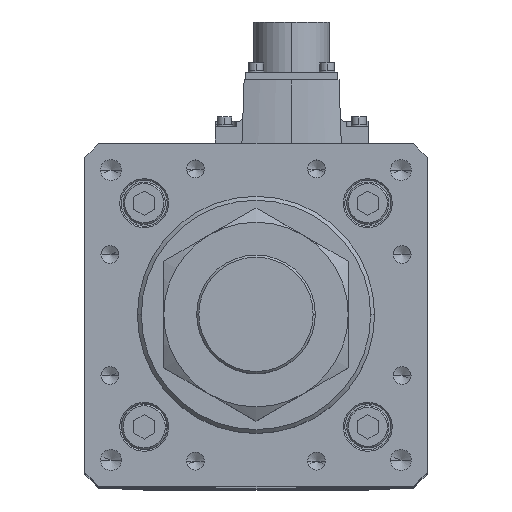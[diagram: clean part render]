
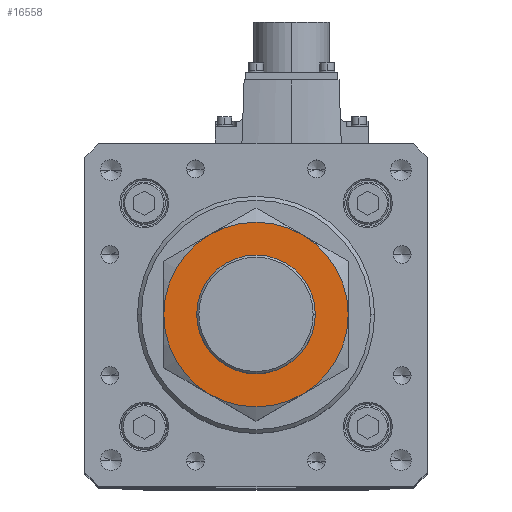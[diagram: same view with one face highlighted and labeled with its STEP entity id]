
A CAD part, top view. The second image highlights one B-rep face of the part: STEP entity #16558.
In plain terms, the highlighted planar face has unit normal (0, 0, 1).
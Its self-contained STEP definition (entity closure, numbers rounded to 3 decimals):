
#303 = CARTESIAN_POINT ( 'NONE',  ( 0., 0., 27. ) ) ;
#1935 = VERTEX_POINT ( 'NONE', #2557 ) ;
#2543 = DIRECTION ( 'NONE',  ( -1., 0., 0. ) ) ;
#2557 = CARTESIAN_POINT ( 'NONE',  ( 17.5, -30.311, 27. ) ) ;
#2814 = VERTEX_POINT ( 'NONE', #12250 ) ;
#3283 = DIRECTION ( 'NONE',  ( 0., 0., -1. ) ) ;
#3291 = EDGE_CURVE ( 'NONE', #1935, #2814, #13544, .T. ) ;
#3456 = EDGE_CURVE ( 'NONE', #19001, #38101, #7527, .T. ) ;
#3832 = VERTEX_POINT ( 'NONE', #32170 ) ;
#4369 = DIRECTION ( 'NONE',  ( 0., 0., 1. ) ) ;
#4972 = CIRCLE ( 'NONE', #32152, 35. ) ;
#5081 = DIRECTION ( 'NONE',  ( -1., 0., 0. ) ) ;
#7527 = CIRCLE ( 'NONE', #17226, 35. ) ;
#8066 = CIRCLE ( 'NONE', #9159, 22.5 ) ;
#8682 = DIRECTION ( 'NONE',  ( 0., 0., -1. ) ) ;
#8838 = VERTEX_POINT ( 'NONE', #26590 ) ;
#8926 = EDGE_LOOP ( 'NONE', ( #18698, #17635 ) ) ;
#8991 = DIRECTION ( 'NONE',  ( 0., 0., -1. ) ) ;
#9159 = AXIS2_PLACEMENT_3D ( 'NONE', #10316, #4369, #18870 ) ;
#10316 = CARTESIAN_POINT ( 'NONE',  ( 0., 0., 27. ) ) ;
#11358 = ORIENTED_EDGE ( 'NONE', *, *, #11622, .F. ) ;
#11463 = CIRCLE ( 'NONE', #22858, 35. ) ;
#11622 = EDGE_CURVE ( 'NONE', #3832, #19001, #20938, .T. ) ;
#11650 = EDGE_LOOP ( 'NONE', ( #33003, #37933, #18721, #11358, #34601, #14578 ) ) ;
#11682 = CARTESIAN_POINT ( 'NONE',  ( 0., 0., 27. ) ) ;
#11683 = DIRECTION ( 'NONE',  ( -1., 0., 0. ) ) ;
#12250 = CARTESIAN_POINT ( 'NONE',  ( -17.5, -30.311, 27. ) ) ;
#13544 = CIRCLE ( 'NONE', #26591, 35. ) ;
#14578 = ORIENTED_EDGE ( 'NONE', *, *, #3291, .F. ) ;
#14792 = EDGE_CURVE ( 'NONE', #20668, #1935, #18701, .T. ) ;
#15198 = CARTESIAN_POINT ( 'NONE',  ( 17.5, 30.311, 27. ) ) ;
#15607 = CARTESIAN_POINT ( 'NONE',  ( 0., 0., 27. ) ) ;
#16558 = ADVANCED_FACE ( 'NONE', ( #28230, #24579 ), #29874, .T. ) ;
#16985 = DIRECTION ( 'NONE',  ( 0., 0., -1. ) ) ;
#17226 = AXIS2_PLACEMENT_3D ( 'NONE', #303, #3283, #11683 ) ;
#17635 = ORIENTED_EDGE ( 'NONE', *, *, #32801, .F. ) ;
#18652 = EDGE_CURVE ( 'NONE', #38101, #20668, #4972, .T. ) ;
#18698 = ORIENTED_EDGE ( 'NONE', *, *, #22639, .F. ) ;
#18701 = CIRCLE ( 'NONE', #30295, 35. ) ;
#18721 = ORIENTED_EDGE ( 'NONE', *, *, #3456, .F. ) ;
#18870 = DIRECTION ( 'NONE',  ( 1., 0., 0. ) ) ;
#19001 = VERTEX_POINT ( 'NONE', #34388 ) ;
#20077 = DIRECTION ( 'NONE',  ( -1., 0., 0. ) ) ;
#20668 = VERTEX_POINT ( 'NONE', #20997 ) ;
#20938 = CIRCLE ( 'NONE', #26498, 35. ) ;
#20997 = CARTESIAN_POINT ( 'NONE',  ( 35., 0., 27. ) ) ;
#21571 = DIRECTION ( 'NONE',  ( 1., 0., 0. ) ) ;
#22401 = VERTEX_POINT ( 'NONE', #23535 ) ;
#22639 = EDGE_CURVE ( 'NONE', #22401, #8838, #8066, .T. ) ;
#22858 = AXIS2_PLACEMENT_3D ( 'NONE', #31890, #8682, #20077 ) ;
#23535 = CARTESIAN_POINT ( 'NONE',  ( -22.5, 0., 27. ) ) ;
#23592 = CARTESIAN_POINT ( 'NONE',  ( 0., 0., 27. ) ) ;
#23710 = DIRECTION ( 'NONE',  ( -1., 0., 0. ) ) ;
#24579 = FACE_BOUND ( 'NONE', #8926, .T. ) ;
#24709 = CIRCLE ( 'NONE', #29752, 22.5 ) ;
#26076 = EDGE_CURVE ( 'NONE', #2814, #3832, #11463, .T. ) ;
#26498 = AXIS2_PLACEMENT_3D ( 'NONE', #30379, #30503, #33578 ) ;
#26590 = CARTESIAN_POINT ( 'NONE',  ( 22.5, 0., 27. ) ) ;
#26591 = AXIS2_PLACEMENT_3D ( 'NONE', #34872, #16985, #5081 ) ;
#28230 = FACE_OUTER_BOUND ( 'NONE', #11650, .T. ) ;
#29752 = AXIS2_PLACEMENT_3D ( 'NONE', #11682, #32304, #37730 ) ;
#29874 = PLANE ( 'NONE',  #36045 ) ;
#30002 = DIRECTION ( 'NONE',  ( 0., 0., 1. ) ) ;
#30295 = AXIS2_PLACEMENT_3D ( 'NONE', #23592, #8991, #23710 ) ;
#30379 = CARTESIAN_POINT ( 'NONE',  ( 0., 0., 27. ) ) ;
#30503 = DIRECTION ( 'NONE',  ( 0., 0., -1. ) ) ;
#31715 = CARTESIAN_POINT ( 'NONE',  ( 0., 0., 27. ) ) ;
#31890 = CARTESIAN_POINT ( 'NONE',  ( 0., 0., 27. ) ) ;
#32152 = AXIS2_PLACEMENT_3D ( 'NONE', #31715, #34670, #2543 ) ;
#32170 = CARTESIAN_POINT ( 'NONE',  ( -35., 0., 27. ) ) ;
#32304 = DIRECTION ( 'NONE',  ( 0., 0., 1. ) ) ;
#32801 = EDGE_CURVE ( 'NONE', #8838, #22401, #24709, .T. ) ;
#33003 = ORIENTED_EDGE ( 'NONE', *, *, #14792, .F. ) ;
#33578 = DIRECTION ( 'NONE',  ( -1., 0., 0. ) ) ;
#34388 = CARTESIAN_POINT ( 'NONE',  ( -17.5, 30.311, 27. ) ) ;
#34601 = ORIENTED_EDGE ( 'NONE', *, *, #26076, .F. ) ;
#34670 = DIRECTION ( 'NONE',  ( 0., 0., -1. ) ) ;
#34872 = CARTESIAN_POINT ( 'NONE',  ( 0., 0., 27. ) ) ;
#36045 = AXIS2_PLACEMENT_3D ( 'NONE', #15607, #30002, #21571 ) ;
#37730 = DIRECTION ( 'NONE',  ( 1., 0., 0. ) ) ;
#37933 = ORIENTED_EDGE ( 'NONE', *, *, #18652, .F. ) ;
#38101 = VERTEX_POINT ( 'NONE', #15198 ) ;
